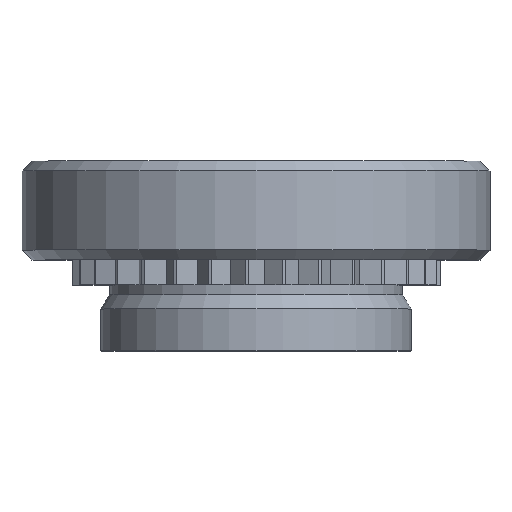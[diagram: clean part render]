
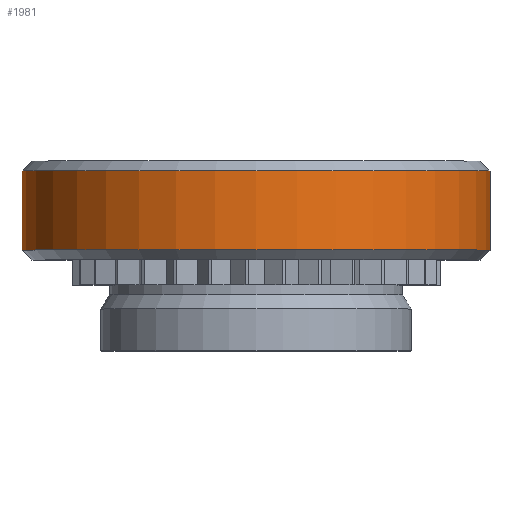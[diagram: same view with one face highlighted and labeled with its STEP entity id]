
A CAD part, top view. The second image highlights one B-rep face of the part: STEP entity #1981.
In plain terms, the highlighted cylindrical face has radius 3.55 mm (diameter 7.1 mm), a full revolution.
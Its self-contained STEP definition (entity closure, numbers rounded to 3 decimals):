
#85=CYLINDRICAL_SURFACE('',#2113,3.55);
#121=FACE_OUTER_BOUND('',#227,.T.);
#227=EDGE_LOOP('',(#1374,#1375,#1376,#1377,#1378,#1379));
#337=LINE('',#2897,#563);
#563=VECTOR('',#2305,3.55);
#789=CIRCLE('',#2111,3.55);
#790=CIRCLE('',#2112,3.55);
#791=CIRCLE('',#2114,3.55);
#792=CIRCLE('',#2115,3.55);
#866=VERTEX_POINT('',#2890);
#867=VERTEX_POINT('',#2892);
#868=VERTEX_POINT('',#2896);
#869=VERTEX_POINT('',#2898);
#1068=EDGE_CURVE('',#866,#867,#789,.T.);
#1069=EDGE_CURVE('',#867,#866,#790,.T.);
#1070=EDGE_CURVE('',#867,#868,#337,.T.);
#1071=EDGE_CURVE('',#869,#868,#791,.T.);
#1072=EDGE_CURVE('',#868,#869,#792,.T.);
#1374=ORIENTED_EDGE('',*,*,#1068,.F.);
#1375=ORIENTED_EDGE('',*,*,#1069,.F.);
#1376=ORIENTED_EDGE('',*,*,#1070,.T.);
#1377=ORIENTED_EDGE('',*,*,#1071,.F.);
#1378=ORIENTED_EDGE('',*,*,#1072,.F.);
#1379=ORIENTED_EDGE('',*,*,#1070,.F.);
#1981=ADVANCED_FACE('',(#121),#85,.T.);
#2111=AXIS2_PLACEMENT_3D('',#2893,#2299,#2300);
#2112=AXIS2_PLACEMENT_3D('',#2894,#2301,#2302);
#2113=AXIS2_PLACEMENT_3D('',#2895,#2303,#2304);
#2114=AXIS2_PLACEMENT_3D('',#2899,#2306,#2307);
#2115=AXIS2_PLACEMENT_3D('',#2900,#2308,#2309);
#2299=DIRECTION('center_axis',(0.,1.,0.));
#2300=DIRECTION('ref_axis',(1.,0.,0.));
#2301=DIRECTION('center_axis',(0.,1.,0.));
#2302=DIRECTION('ref_axis',(1.,0.,0.));
#2303=DIRECTION('center_axis',(0.,1.,0.));
#2304=DIRECTION('ref_axis',(-1.,0.,0.));
#2305=DIRECTION('',(0.,-1.,0.));
#2306=DIRECTION('center_axis',(0.,-1.,0.));
#2307=DIRECTION('ref_axis',(1.,0.,0.));
#2308=DIRECTION('center_axis',(0.,-1.,0.));
#2309=DIRECTION('ref_axis',(1.,0.,0.));
#2890=CARTESIAN_POINT('',(-3.55,2.73,0.));
#2892=CARTESIAN_POINT('',(3.55,2.73,0.));
#2893=CARTESIAN_POINT('Origin',(0.,2.73,0.));
#2894=CARTESIAN_POINT('Origin',(0.,2.73,0.));
#2895=CARTESIAN_POINT('Origin',(0.,2.13,0.));
#2896=CARTESIAN_POINT('',(3.55,1.53,0.));
#2897=CARTESIAN_POINT('',(3.55,2.13,0.));
#2898=CARTESIAN_POINT('',(-3.55,1.53,0.));
#2899=CARTESIAN_POINT('Origin',(0.,1.53,0.));
#2900=CARTESIAN_POINT('Origin',(0.,1.53,0.));
